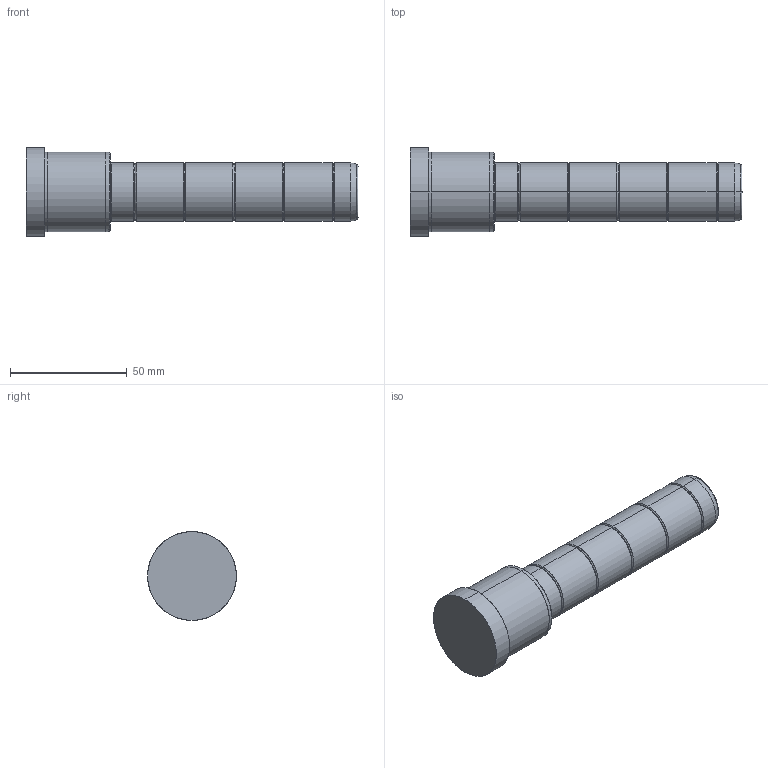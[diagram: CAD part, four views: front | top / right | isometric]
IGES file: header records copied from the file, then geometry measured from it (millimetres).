
Start section: SolidWorks IGES file using analytic representation for surfaces
Global section: file name: C:\Documents and Settings\kalite-mail\Desktop\IGS\D02\25\D02 - 25x36x106.IGS; native system: SolidWorks 2008; preprocessor: SolidWorks 2008; author: kalite-mail; date: 080616.172701; units: millimetre
Bounding box: 142 x 38 x 38 mm (x, y, z)
Surface area: 14625.6 mm2 (no closed solid volume)
Topology: 0 solids, 0 shells, 54 faces, 768 edges, 768 vertices
Faces by surface type: bspline 30, revolution 24
